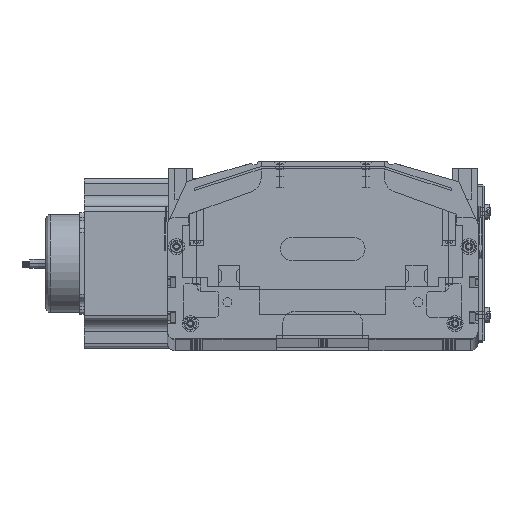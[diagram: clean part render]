
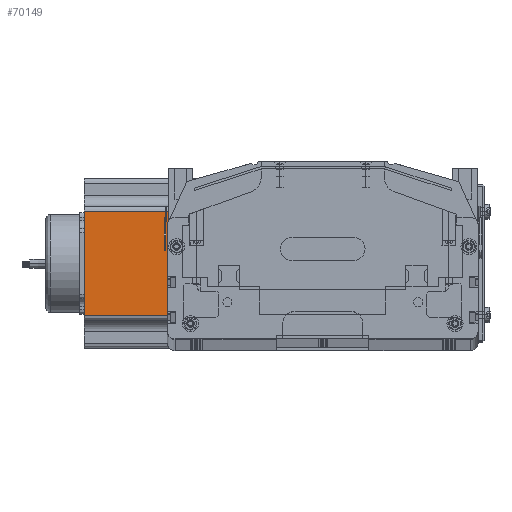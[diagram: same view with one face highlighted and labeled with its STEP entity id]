
A CAD part, top view. The second image highlights one B-rep face of the part: STEP entity #70149.
In plain terms, the highlighted planar face has unit normal (0, 0, 1) as drawn and (0, -1, 0) by its records, which use the part's own axes.
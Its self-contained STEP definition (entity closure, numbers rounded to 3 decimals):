
#67253 = ORIENTED_EDGE ( 'NONE', *, *, #70364, .F. ) ;
#67978 = VERTEX_POINT ( 'NONE', #84309 ) ;
#67986 = VERTEX_POINT ( 'NONE', #83972 ) ;
#70141 = VERTEX_POINT ( 'NONE', #87006 ) ;
#70142 = EDGE_CURVE ( 'NONE', #70141, #67978, #87161, .T. ) ;
#70145 = EDGE_CURVE ( 'NONE', #67986, #70141, #87129, .T. ) ;
#70149 = ADVANCED_FACE ( 'NONE', ( #87135 ), #87146, .F. ) ;
#70153 = ORIENTED_EDGE ( 'NONE', *, *, #70145, .T. ) ;
#70359 = ORIENTED_EDGE ( 'NONE', *, *, #70411, .T. ) ;
#70364 = EDGE_CURVE ( 'NONE', #70429, #67978, #87440, .T. ) ;
#70411 = EDGE_CURVE ( 'NONE', #70429, #67986, #87714, .T. ) ;
#70429 = VERTEX_POINT ( 'NONE', #87628 ) ;
#70663 = EDGE_LOOP ( 'NONE', ( #70153, #70675, #67253, #70359 ) ) ;
#70675 = ORIENTED_EDGE ( 'NONE', *, *, #70142, .T. ) ;
#83972 = CARTESIAN_POINT ( 'NONE',  ( 21.048, 0., 0. ) ) ;
#84309 = CARTESIAN_POINT ( 'NONE',  ( 88.952, 0., 160.5 ) ) ;
#87006 = CARTESIAN_POINT ( 'NONE',  ( 88.952, 0., 0. ) ) ;
#87119 = DIRECTION ( 'NONE',  ( 0., 0., 1. ) ) ;
#87120 = DIRECTION ( 'NONE',  ( 0., 1., 0. ) ) ;
#87126 = DIRECTION ( 'NONE',  ( 1., 0., 0. ) ) ;
#87127 = VECTOR ( 'NONE', #87126, 1000. ) ;
#87128 = CARTESIAN_POINT ( 'NONE',  ( 0., 0., 0. ) ) ;
#87129 = LINE ( 'NONE', #87128, #87127 ) ;
#87131 = DIRECTION ( 'NONE',  ( 0., 0., 1. ) ) ;
#87132 = VECTOR ( 'NONE', #87131, 1000. ) ;
#87133 = AXIS2_PLACEMENT_3D ( 'NONE', #87134, #87120, #87119 ) ;
#87134 = CARTESIAN_POINT ( 'NONE',  ( 0., 0., 160.5 ) ) ;
#87135 = FACE_OUTER_BOUND ( 'NONE', #70663, .T. ) ;
#87146 = PLANE ( 'NONE',  #87133 ) ;
#87160 = CARTESIAN_POINT ( 'NONE',  ( 88.952, 0., 160.5 ) ) ;
#87161 = LINE ( 'NONE', #87160, #87132 ) ;
#87434 = DIRECTION ( 'NONE',  ( 1., 0., 0. ) ) ;
#87435 = VECTOR ( 'NONE', #87434, 1000. ) ;
#87439 = CARTESIAN_POINT ( 'NONE',  ( 0., 0., 160.5 ) ) ;
#87440 = LINE ( 'NONE', #87439, #87435 ) ;
#87628 = CARTESIAN_POINT ( 'NONE',  ( 21.048, 0., 160.5 ) ) ;
#87709 = DIRECTION ( 'NONE',  ( 0., 0., -1. ) ) ;
#87710 = VECTOR ( 'NONE', #87709, 1000. ) ;
#87711 = CARTESIAN_POINT ( 'NONE',  ( 21.048, 0., 160.5 ) ) ;
#87714 = LINE ( 'NONE', #87711, #87710 ) ;
